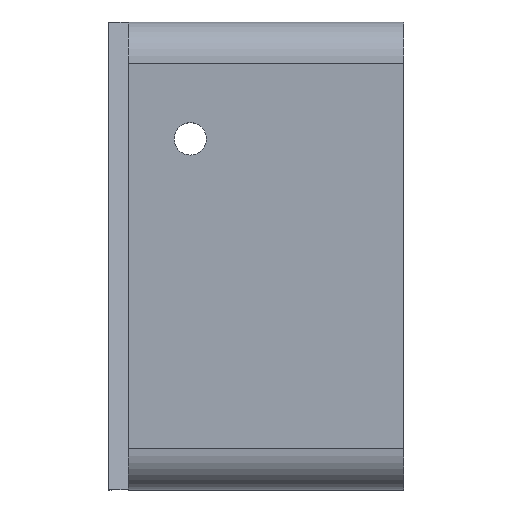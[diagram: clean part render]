
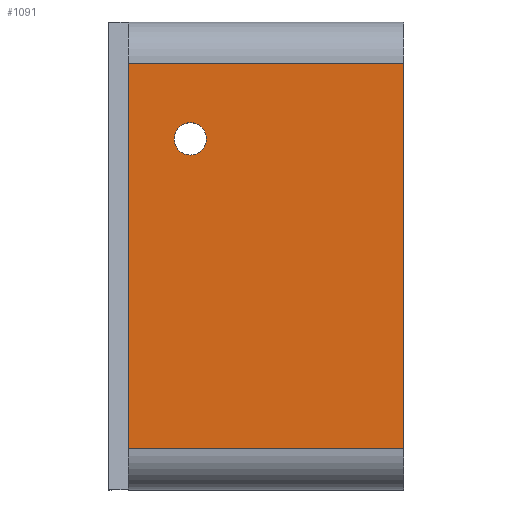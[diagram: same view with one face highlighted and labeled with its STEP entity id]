
A CAD part, top view. The second image highlights one B-rep face of the part: STEP entity #1091.
In plain terms, the highlighted planar face has unit normal (0, 0, 1).
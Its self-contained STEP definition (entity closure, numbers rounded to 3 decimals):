
#37=DIRECTION('',(0.,-1.,0.));
#38=VECTOR('',#37,56.);
#39=CARTESIAN_POINT('',(80.,-6.,0.));
#40=LINE('',#39,#38);
#382=CARTESIAN_POINT('',(49.,-17.,0.));
#383=DIRECTION('',(0.,0.,-1.));
#384=DIRECTION('',(-1.,0.,0.));
#385=AXIS2_PLACEMENT_3D('',#382,#383,#384);
#387=CARTESIAN_POINT('',(49.,-17.,0.));
#388=DIRECTION('',(0.,0.,-1.));
#389=DIRECTION('',(1.,0.,0.));
#390=AXIS2_PLACEMENT_3D('',#387,#388,#389);
#392=DIRECTION('',(-1.,0.,0.));
#393=VECTOR('',#392,40.);
#394=CARTESIAN_POINT('',(80.,-6.,0.));
#395=LINE('',#394,#393);
#396=DIRECTION('',(-1.,0.,0.));
#397=VECTOR('',#396,40.);
#398=CARTESIAN_POINT('',(80.,-62.,0.));
#399=LINE('',#398,#397);
#400=DIRECTION('',(0.,-1.,0.));
#401=VECTOR('',#400,56.);
#402=CARTESIAN_POINT('',(40.,-6.,0.));
#403=LINE('',#402,#401);
#557=CARTESIAN_POINT('',(80.,-6.,0.));
#559=VERTEX_POINT('',#557);
#560=CARTESIAN_POINT('',(80.,-62.,0.));
#562=VERTEX_POINT('',#560);
#607=CARTESIAN_POINT('',(46.65,-17.,0.));
#608=CARTESIAN_POINT('',(51.35,-17.,0.));
#609=VERTEX_POINT('',#607);
#610=VERTEX_POINT('',#608);
#649=CARTESIAN_POINT('',(40.,-6.,0.));
#650=VERTEX_POINT('',#649);
#651=CARTESIAN_POINT('',(40.,-62.,0.));
#652=VERTEX_POINT('',#651);
#1072=CARTESIAN_POINT('',(0.,0.,0.));
#1073=DIRECTION('',(0.,0.,1.));
#1074=DIRECTION('',(0.,-1.,0.));
#1075=AXIS2_PLACEMENT_3D('',#1072,#1073,#1074);
#1076=PLANE('',#1075);
#1078=ORIENTED_EDGE('',*,*,#1077,.F.);
#1079=ORIENTED_EDGE('',*,*,#683,.T.);
#1081=ORIENTED_EDGE('',*,*,#1080,.T.);
#1082=ORIENTED_EDGE('',*,*,#1060,.F.);
#1083=EDGE_LOOP('',(#1078,#1079,#1081,#1082));
#1084=FACE_OUTER_BOUND('',#1083,.F.);
#1086=ORIENTED_EDGE('',*,*,#1085,.F.);
#1088=ORIENTED_EDGE('',*,*,#1087,.F.);
#1089=EDGE_LOOP('',(#1086,#1088));
#1090=FACE_BOUND('',#1089,.F.);
#1091=ADVANCED_FACE('',(#1084,#1090),#1076,.T.);
#386=CIRCLE('',#385,2.35);
#391=CIRCLE('',#390,2.35);
#683=EDGE_CURVE('',#559,#562,#40,.T.);
#1060=EDGE_CURVE('',#650,#652,#403,.T.);
#1077=EDGE_CURVE('',#559,#650,#395,.T.);
#1080=EDGE_CURVE('',#562,#652,#399,.T.);
#1085=EDGE_CURVE('',#609,#610,#386,.T.);
#1087=EDGE_CURVE('',#610,#609,#391,.T.);
